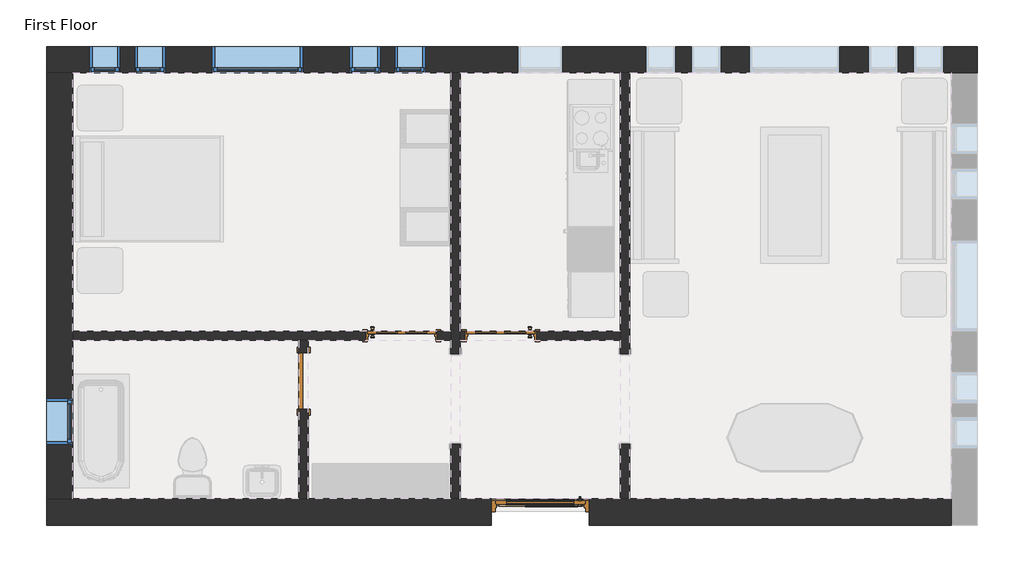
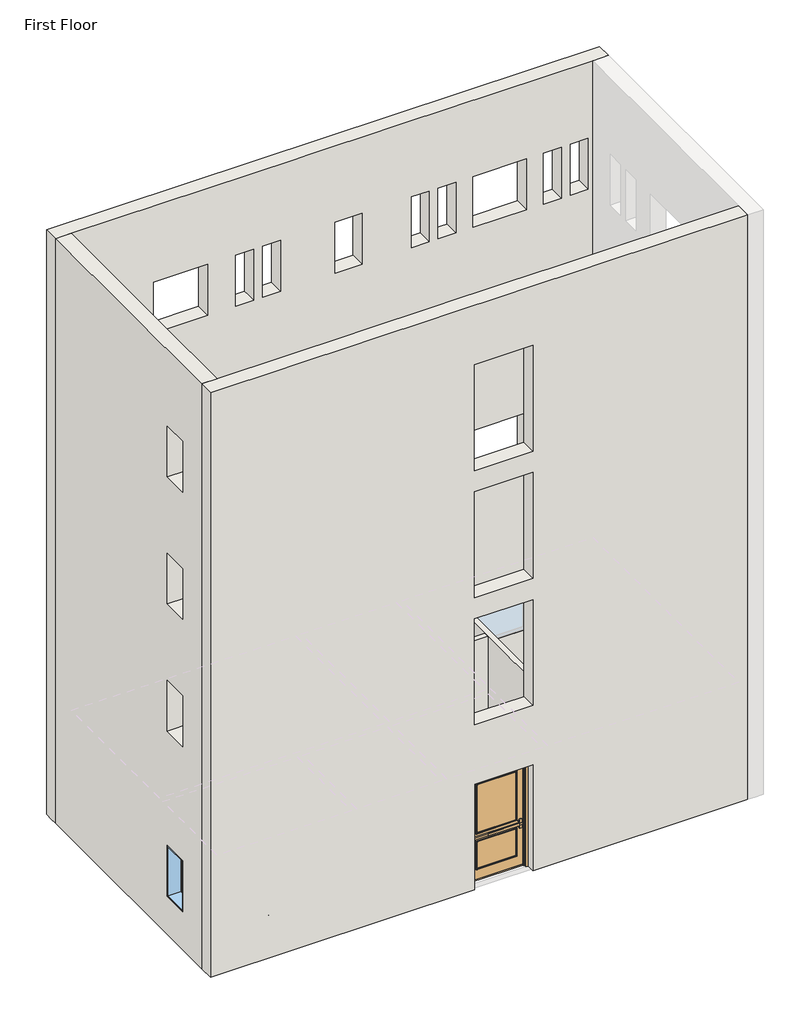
# One storey, part 1 of 2: 7 walls, 6 windows, 4 doors.
"""IFC4 building model written with IfcOpenShell, lengths in millimetres."""

from ifc_helpers import new_model, si_unit, frame, origin, place, context, project, spatial, polyline, outline, extrude, faceted_brep, transform, mapped, element, save
from components import door_734823c0, door_3a280f7b, door_48307b55, door_4d6c7550, window_da97879f, window_d61ef850, window_60baf983, window_6eb97611

model = new_model("IFC4")

# Units and contexts
model_context = context("Model", 3, world=origin())
ifc_project = project(units=[si_unit("LENGTHUNIT", "METRE", prefix="MILLI")], contexts=[model_context])

# Site, building, storey
site = spatial("IfcSite", under=ifc_project)
building = spatial("IfcBuilding", under=site)
storey = spatial("IfcBuildingStorey", under=building, Name="First Floor", Elevation=-914.4)

# Doors
placement = place(None, origin())
door_shape = door_734823c0(model_context)
element("IfcDoor", 1, ObjectType="Door-Exterior-Single-Two_Lite : 48\" x 96\"", at=placement, inside=storey, context=model_context, shape_type="MappedRepresentation", body=[
    mapped(door_shape, transform((-9720.1844712, 1685.5066174, -914.4), x_axis=(-1.0, 0.0, 0.0), y_axis=(0.0, -1.0, 0.0), z_axis=(0.0, 0.0, 1.0))),
])
door_2_shape = door_3a280f7b(model_context)
element("IfcDoor", 2, ObjectType="Door-Interior-Single-4_Panel-Wood : 36\" x 84\"", at=placement, inside=storey, context=model_context, shape_type="MappedRepresentation", body=[
    mapped(door_2_shape, transform((-10253.5844712, 4069.8630697, -914.4), x_axis=(-1.0, 0.0, 0.0), y_axis=(0.0, -1.0, 0.0), z_axis=(0.0, 0.0, 1.0))),
])
door_3_shape = door_48307b55(model_context)
element("IfcDoor", 3, ObjectType="Door-Interior-Single-4_Panel-Wood : 36\" x 84\"", at=placement, inside=storey, context=model_context, shape_type="MappedRepresentation", body=[
    mapped(door_3_shape, transform((-11588.6719712, 4069.8630697, -914.4), x_axis=(1.0, 0.0, 0.0), y_axis=(0.0, 1.0, 0.0), z_axis=(0.0, 0.0, 1.0))),
])
door_4_shape = door_4d6c7550(model_context)
element("IfcDoor", 4, ObjectType="Single-Flush : 30\" x 84\"", at=placement, inside=storey, context=model_context, shape_type="MappedRepresentation", body=[
    mapped(door_4_shape, transform((-12909.4719712, 3455.5691174, -914.4), x_axis=(0.0, 1.0, 0.0), y_axis=(-1.0, 0.0, 0.0), z_axis=(0.0, 0.0, 1.0))),
])

# Walls
element("IfcWall", 5, ObjectType="Exterior - Brick on Mtl. Stud", at=placement, inside=storey, context=model_context, shape_type="Brep", body=[
    faceted_brep([(-16373.3969712, 7611.6441174, -914.4), (-16186.0719712, 7611.6441174, -914.4), (-16020.9719712, 7611.6441174, -914.4), (-10926.6844712, 7611.6441174, -914.4), (-10799.6844712, 7611.6441174, -914.4), (-8640.6844712, 7611.6441174, -914.4), (-8513.6844712, 7611.6441174, -914.4), (-4181.3969712, 7611.6441174, -914.4), (-4016.2969712, 7611.6441174, -914.4), (-3828.9719712, 7611.6441174, -914.4), (-3828.9719712, 7611.6441174, 13106.4), (-4181.3969712, 7611.6441174, 13106.4), (-8513.6844712, 7611.6441174, 13106.4), (-8640.6844712, 7611.6441174, 13106.4), (-10799.6844712, 7611.6441174, 13106.4), (-10926.6844712, 7611.6441174, 13106.4), (-16020.9719712, 7611.6441174, 13106.4), (-16373.3969712, 7611.6441174, 13106.4), (-10024.9844712, 7611.6441174, 1219.2), (-9415.3844712, 7611.6441174, 1219.2), (-9415.3844712, 7611.6441174, 0.0), (-10024.9844712, 7611.6441174, 0.0), (-14139.7844712, 7611.6441174, 1219.2), (-12920.5844712, 7611.6441174, 1219.2), (-12920.5844712, 7611.6441174, 0.0), (-14139.7844712, 7611.6441174, 0.0), (-6900.7844712, 7611.6441174, 1219.2), (-5681.5844712, 7611.6441174, 1219.2), (-5681.5844712, 7611.6441174, 0.0), (-6900.7844712, 7611.6441174, 0.0), (-15790.7844712, 7611.6441174, 1219.2), (-15384.3844712, 7611.6441174, 1219.2), (-15384.3844712, 7611.6441174, 0.0), (-15790.7844712, 7611.6441174, 0.0), (-15181.1844712, 7611.6441174, 1219.2), (-14774.7844712, 7611.6441174, 1219.2), (-14774.7844712, 7611.6441174, 0.0), (-15181.1844712, 7611.6441174, 0.0), (-11879.1844712, 7611.6441174, 1219.2), (-11879.1844712, 7611.6441174, 0.0), (-12285.5844712, 7611.6441174, 0.0), (-12285.5844712, 7611.6441174, 1219.2), (-11269.5844712, 7611.6441174, 1219.2), (-11269.5844712, 7611.6441174, 0.0), (-11675.9844712, 7611.6441174, 0.0), (-11675.9844712, 7611.6441174, 1219.2), (-7688.1844712, 7611.6441174, 1219.2), (-7281.7844712, 7611.6441174, 1219.2), (-7281.7844712, 7611.6441174, 0.0), (-7688.1844712, 7611.6441174, 0.0), (-8297.7844712, 7611.6441174, 1219.2), (-7891.3844712, 7611.6441174, 1219.2), (-7891.3844712, 7611.6441174, 0.0), (-8297.7844712, 7611.6441174, 0.0), (-4894.1844712, 7611.6441174, 1219.2), (-4894.1844712, 7611.6441174, 0.0), (-5300.5844712, 7611.6441174, 0.0), (-5300.5844712, 7611.6441174, 1219.2), (-4284.5844712, 7611.6441174, 1219.2), (-4284.5844712, 7611.6441174, 0.0), (-4690.9844712, 7611.6441174, 0.0), (-4690.9844712, 7611.6441174, 1219.2), (-4894.1844712, 7611.6441174, 11277.6), (-4894.1844712, 7611.6441174, 10058.4), (-5300.5844712, 7611.6441174, 10058.4), (-5300.5844712, 7611.6441174, 11277.6), (-4284.5844712, 7611.6441174, 11277.6), (-4284.5844712, 7611.6441174, 10058.4), (-4690.9844712, 7611.6441174, 10058.4), (-4690.9844712, 7611.6441174, 11277.6), (-7688.1844712, 7611.6441174, 11277.6), (-7281.7844712, 7611.6441174, 11277.6), (-7281.7844712, 7611.6441174, 10058.4), (-7688.1844712, 7611.6441174, 10058.4), (-8297.7844712, 7611.6441174, 11277.6), (-7891.3844712, 7611.6441174, 11277.6), (-7891.3844712, 7611.6441174, 10058.4), (-8297.7844712, 7611.6441174, 10058.4), (-11879.1844712, 7611.6441174, 11277.6), (-11879.1844712, 7611.6441174, 10058.4), (-12285.5844712, 7611.6441174, 10058.4), (-12285.5844712, 7611.6441174, 11277.6), (-11269.5844712, 7611.6441174, 11277.6), (-11269.5844712, 7611.6441174, 10058.4), (-11675.9844712, 7611.6441174, 10058.4), (-11675.9844712, 7611.6441174, 11277.6), (-15181.1844712, 7611.6441174, 11277.6), (-14774.7844712, 7611.6441174, 11277.6), (-14774.7844712, 7611.6441174, 10058.4), (-15181.1844712, 7611.6441174, 10058.4), (-15790.7844712, 7611.6441174, 11277.6), (-15384.3844712, 7611.6441174, 11277.6), (-15384.3844712, 7611.6441174, 10058.4), (-15790.7844712, 7611.6441174, 10058.4), (-6900.7844712, 7611.6441174, 11277.6), (-5681.5844712, 7611.6441174, 11277.6), (-5681.5844712, 7611.6441174, 10058.4), (-6900.7844712, 7611.6441174, 10058.4), (-14139.7844712, 7611.6441174, 11277.6), (-12920.5844712, 7611.6441174, 11277.6), (-12920.5844712, 7611.6441174, 10058.4), (-14139.7844712, 7611.6441174, 10058.4), (-10024.9844712, 7611.6441174, 11277.6), (-9415.3844712, 7611.6441174, 11277.6), (-9415.3844712, 7611.6441174, 10058.4), (-10024.9844712, 7611.6441174, 10058.4), (-4894.1844712, 7611.6441174, 5181.6), (-4894.1844712, 7611.6441174, 3962.4), (-5300.5844712, 7611.6441174, 3962.4), (-5300.5844712, 7611.6441174, 5181.6), (-4284.5844712, 7611.6441174, 5181.6), (-4284.5844712, 7611.6441174, 3962.4), (-4690.9844712, 7611.6441174, 3962.4), (-4690.9844712, 7611.6441174, 5181.6), (-7688.1844712, 7611.6441174, 5181.6), (-7281.7844712, 7611.6441174, 5181.6), (-7281.7844712, 7611.6441174, 3962.4), (-7688.1844712, 7611.6441174, 3962.4), (-8297.7844712, 7611.6441174, 5181.6), (-7891.3844712, 7611.6441174, 5181.6), (-7891.3844712, 7611.6441174, 3962.4), (-8297.7844712, 7611.6441174, 3962.4), (-11879.1844712, 7611.6441174, 5181.6), (-11879.1844712, 7611.6441174, 3962.4), (-12285.5844712, 7611.6441174, 3962.4), (-12285.5844712, 7611.6441174, 5181.6), (-11269.5844712, 7611.6441174, 5181.6), (-11269.5844712, 7611.6441174, 3962.4), (-11675.9844712, 7611.6441174, 3962.4), (-11675.9844712, 7611.6441174, 5181.6), (-15181.1844712, 7611.6441174, 5181.6), (-14774.7844712, 7611.6441174, 5181.6), (-14774.7844712, 7611.6441174, 3962.4), (-15181.1844712, 7611.6441174, 3962.4), (-15790.7844712, 7611.6441174, 5181.6), (-15384.3844712, 7611.6441174, 5181.6), (-15384.3844712, 7611.6441174, 3962.4), (-15790.7844712, 7611.6441174, 3962.4), (-6900.7844712, 7611.6441174, 5181.6), (-5681.5844712, 7611.6441174, 5181.6), (-5681.5844712, 7611.6441174, 3962.4), (-6900.7844712, 7611.6441174, 3962.4), (-14139.7844712, 7611.6441174, 5181.6), (-12920.5844712, 7611.6441174, 5181.6), (-12920.5844712, 7611.6441174, 3962.4), (-14139.7844712, 7611.6441174, 3962.4), (-10024.9844712, 7611.6441174, 5181.6), (-9415.3844712, 7611.6441174, 5181.6), (-9415.3844712, 7611.6441174, 3962.4), (-10024.9844712, 7611.6441174, 3962.4), (-4894.1844712, 7611.6441174, 8229.6), (-4894.1844712, 7611.6441174, 7010.4), (-5300.5844712, 7611.6441174, 7010.4), (-5300.5844712, 7611.6441174, 8229.6), (-4284.5844712, 7611.6441174, 8229.6), (-4284.5844712, 7611.6441174, 7010.4), (-4690.9844712, 7611.6441174, 7010.4), (-4690.9844712, 7611.6441174, 8229.6), (-7688.1844712, 7611.6441174, 8229.6), (-7281.7844712, 7611.6441174, 8229.6), (-7281.7844712, 7611.6441174, 7010.4), (-7688.1844712, 7611.6441174, 7010.4), (-8297.7844712, 7611.6441174, 8229.6), (-7891.3844712, 7611.6441174, 8229.6), (-7891.3844712, 7611.6441174, 7010.4), (-8297.7844712, 7611.6441174, 7010.4), (-11879.1844712, 7611.6441174, 8229.6), (-11879.1844712, 7611.6441174, 7010.4), (-12285.5844712, 7611.6441174, 7010.4), (-12285.5844712, 7611.6441174, 8229.6), (-11269.5844712, 7611.6441174, 8229.6), (-11269.5844712, 7611.6441174, 7010.4), (-11675.9844712, 7611.6441174, 7010.4), (-11675.9844712, 7611.6441174, 8229.6), (-15181.1844712, 7611.6441174, 8229.6), (-14774.7844712, 7611.6441174, 8229.6), (-14774.7844712, 7611.6441174, 7010.4), (-15181.1844712, 7611.6441174, 7010.4), (-15790.7844712, 7611.6441174, 8229.6), (-15384.3844712, 7611.6441174, 8229.6), (-15384.3844712, 7611.6441174, 7010.4), (-15790.7844712, 7611.6441174, 7010.4), (-6900.7844712, 7611.6441174, 8229.6), (-5681.5844712, 7611.6441174, 8229.6), (-5681.5844712, 7611.6441174, 7010.4), (-6900.7844712, 7611.6441174, 7010.4), (-14139.7844712, 7611.6441174, 8229.6), (-12920.5844712, 7611.6441174, 8229.6), (-12920.5844712, 7611.6441174, 7010.4), (-14139.7844712, 7611.6441174, 7010.4), (-10024.9844712, 7611.6441174, 8229.6), (-9415.3844712, 7611.6441174, 8229.6), (-9415.3844712, 7611.6441174, 7010.4), (-10024.9844712, 7611.6441174, 7010.4), (-16373.3969712, 7964.0691174, -914.4), (-16373.3969712, 7964.0691174, 13106.4), (-3828.9719712, 7964.0691174, 13106.4), (-3828.9719712, 7964.0691174, -914.4), (-4016.2969712, 7964.0691174, -914.4), (-16186.0719712, 7964.0691174, -914.4), (-10024.9844712, 7964.0691174, 1219.2), (-10024.9844712, 7964.0691174, 0.0), (-9415.3844712, 7964.0691174, 0.0), (-9415.3844712, 7964.0691174, 1219.2), (-14139.7844712, 7964.0691174, 1219.2), (-14139.7844712, 7964.0691174, 0.0), (-12920.5844712, 7964.0691174, 0.0), (-12920.5844712, 7964.0691174, 1219.2), (-6900.7844712, 7964.0691174, 1219.2), (-6900.7844712, 7964.0691174, 0.0), (-5681.5844712, 7964.0691174, 0.0), (-5681.5844712, 7964.0691174, 1219.2), (-15790.7844712, 7964.0691174, 1219.2), (-15790.7844712, 7964.0691174, 0.0), (-15384.3844712, 7964.0691174, 0.0), (-15384.3844712, 7964.0691174, 1219.2), (-15181.1844712, 7964.0691174, 1219.2), (-15181.1844712, 7964.0691174, 0.0), (-14774.7844712, 7964.0691174, 0.0), (-14774.7844712, 7964.0691174, 1219.2), (-11879.1844712, 7964.0691174, 1219.2), (-12285.5844712, 7964.0691174, 1219.2), (-12285.5844712, 7964.0691174, 0.0), (-11879.1844712, 7964.0691174, 0.0), (-11269.5844712, 7964.0691174, 1219.2), (-11675.9844712, 7964.0691174, 1219.2), (-11675.9844712, 7964.0691174, 0.0), (-11269.5844712, 7964.0691174, 0.0), (-7688.1844712, 7964.0691174, 1219.2), (-7688.1844712, 7964.0691174, 0.0), (-7281.7844712, 7964.0691174, 0.0), (-7281.7844712, 7964.0691174, 1219.2), (-8297.7844712, 7964.0691174, 1219.2), (-8297.7844712, 7964.0691174, 0.0), (-7891.3844712, 7964.0691174, 0.0), (-7891.3844712, 7964.0691174, 1219.2), (-4894.1844712, 7964.0691174, 1219.2), (-5300.5844712, 7964.0691174, 1219.2), (-5300.5844712, 7964.0691174, 0.0), (-4894.1844712, 7964.0691174, 0.0), (-4284.5844712, 7964.0691174, 1219.2), (-4690.9844712, 7964.0691174, 1219.2), (-4690.9844712, 7964.0691174, 0.0), (-4284.5844712, 7964.0691174, 0.0), (-4894.1844712, 7964.0691174, 11277.6), (-5300.5844712, 7964.0691174, 11277.6), (-5300.5844712, 7964.0691174, 10058.4), (-4894.1844712, 7964.0691174, 10058.4), (-4284.5844712, 7964.0691174, 11277.6), (-4690.9844712, 7964.0691174, 11277.6), (-4690.9844712, 7964.0691174, 10058.4), (-4284.5844712, 7964.0691174, 10058.4), (-7688.1844712, 7964.0691174, 11277.6), (-7688.1844712, 7964.0691174, 10058.4), (-7281.7844712, 7964.0691174, 10058.4), (-7281.7844712, 7964.0691174, 11277.6), (-8297.7844712, 7964.0691174, 11277.6), (-8297.7844712, 7964.0691174, 10058.4), (-7891.3844712, 7964.0691174, 10058.4), (-7891.3844712, 7964.0691174, 11277.6), (-11879.1844712, 7964.0691174, 11277.6), (-12285.5844712, 7964.0691174, 11277.6), (-12285.5844712, 7964.0691174, 10058.4), (-11879.1844712, 7964.0691174, 10058.4), (-11269.5844712, 7964.0691174, 11277.6), (-11675.9844712, 7964.0691174, 11277.6), (-11675.9844712, 7964.0691174, 10058.4), (-11269.5844712, 7964.0691174, 10058.4), (-15181.1844712, 7964.0691174, 11277.6), (-15181.1844712, 7964.0691174, 10058.4), (-14774.7844712, 7964.0691174, 10058.4), (-14774.7844712, 7964.0691174, 11277.6), (-15790.7844712, 7964.0691174, 11277.6), (-15790.7844712, 7964.0691174, 10058.4), (-15384.3844712, 7964.0691174, 10058.4), (-15384.3844712, 7964.0691174, 11277.6), (-6900.7844712, 7964.0691174, 11277.6), (-6900.7844712, 7964.0691174, 10058.4), (-5681.5844712, 7964.0691174, 10058.4), (-5681.5844712, 7964.0691174, 11277.6), (-14139.7844712, 7964.0691174, 11277.6), (-14139.7844712, 7964.0691174, 10058.4), (-12920.5844712, 7964.0691174, 10058.4), (-12920.5844712, 7964.0691174, 11277.6), (-10024.9844712, 7964.0691174, 11277.6), (-10024.9844712, 7964.0691174, 10058.4), (-9415.3844712, 7964.0691174, 10058.4), (-9415.3844712, 7964.0691174, 11277.6), (-4894.1844712, 7964.0691174, 5181.6), (-5300.5844712, 7964.0691174, 5181.6), (-5300.5844712, 7964.0691174, 3962.4), (-4894.1844712, 7964.0691174, 3962.4), (-4284.5844712, 7964.0691174, 5181.6), (-4690.9844712, 7964.0691174, 5181.6), (-4690.9844712, 7964.0691174, 3962.4), (-4284.5844712, 7964.0691174, 3962.4), (-7688.1844712, 7964.0691174, 5181.6), (-7688.1844712, 7964.0691174, 3962.4), (-7281.7844712, 7964.0691174, 3962.4), (-7281.7844712, 7964.0691174, 5181.6), (-8297.7844712, 7964.0691174, 5181.6), (-8297.7844712, 7964.0691174, 3962.4), (-7891.3844712, 7964.0691174, 3962.4), (-7891.3844712, 7964.0691174, 5181.6), (-11879.1844712, 7964.0691174, 5181.6), (-12285.5844712, 7964.0691174, 5181.6), (-12285.5844712, 7964.0691174, 3962.4), (-11879.1844712, 7964.0691174, 3962.4), (-11269.5844712, 7964.0691174, 5181.6), (-11675.9844712, 7964.0691174, 5181.6), (-11675.9844712, 7964.0691174, 3962.4), (-11269.5844712, 7964.0691174, 3962.4), (-15181.1844712, 7964.0691174, 5181.6), (-15181.1844712, 7964.0691174, 3962.4), (-14774.7844712, 7964.0691174, 3962.4), (-14774.7844712, 7964.0691174, 5181.6), (-15790.7844712, 7964.0691174, 5181.6), (-15790.7844712, 7964.0691174, 3962.4), (-15384.3844712, 7964.0691174, 3962.4), (-15384.3844712, 7964.0691174, 5181.6), (-6900.7844712, 7964.0691174, 5181.6), (-6900.7844712, 7964.0691174, 3962.4), (-5681.5844712, 7964.0691174, 3962.4), (-5681.5844712, 7964.0691174, 5181.6), (-14139.7844712, 7964.0691174, 5181.6), (-14139.7844712, 7964.0691174, 3962.4), (-12920.5844712, 7964.0691174, 3962.4), (-12920.5844712, 7964.0691174, 5181.6), (-10024.9844712, 7964.0691174, 5181.6), (-10024.9844712, 7964.0691174, 3962.4), (-9415.3844712, 7964.0691174, 3962.4), (-9415.3844712, 7964.0691174, 5181.6), (-4894.1844712, 7964.0691174, 8229.6), (-5300.5844712, 7964.0691174, 8229.6), (-5300.5844712, 7964.0691174, 7010.4), (-4894.1844712, 7964.0691174, 7010.4), (-4284.5844712, 7964.0691174, 8229.6), (-4690.9844712, 7964.0691174, 8229.6), (-4690.9844712, 7964.0691174, 7010.4), (-4284.5844712, 7964.0691174, 7010.4), (-7688.1844712, 7964.0691174, 8229.6), (-7688.1844712, 7964.0691174, 7010.4), (-7281.7844712, 7964.0691174, 7010.4), (-7281.7844712, 7964.0691174, 8229.6), (-8297.7844712, 7964.0691174, 8229.6), (-8297.7844712, 7964.0691174, 7010.4), (-7891.3844712, 7964.0691174, 7010.4), (-7891.3844712, 7964.0691174, 8229.6), (-11879.1844712, 7964.0691174, 8229.6), (-12285.5844712, 7964.0691174, 8229.6), (-12285.5844712, 7964.0691174, 7010.4), (-11879.1844712, 7964.0691174, 7010.4), (-11269.5844712, 7964.0691174, 8229.6), (-11675.9844712, 7964.0691174, 8229.6), (-11675.9844712, 7964.0691174, 7010.4), (-11269.5844712, 7964.0691174, 7010.4), (-15181.1844712, 7964.0691174, 8229.6), (-15181.1844712, 7964.0691174, 7010.4), (-14774.7844712, 7964.0691174, 7010.4), (-14774.7844712, 7964.0691174, 8229.6), (-15790.7844712, 7964.0691174, 8229.6), (-15790.7844712, 7964.0691174, 7010.4), (-15384.3844712, 7964.0691174, 7010.4), (-15384.3844712, 7964.0691174, 8229.6), (-6900.7844712, 7964.0691174, 8229.6), (-6900.7844712, 7964.0691174, 7010.4), (-5681.5844712, 7964.0691174, 7010.4), (-5681.5844712, 7964.0691174, 8229.6), (-14139.7844712, 7964.0691174, 8229.6), (-14139.7844712, 7964.0691174, 7010.4), (-12920.5844712, 7964.0691174, 7010.4), (-12920.5844712, 7964.0691174, 8229.6), (-10024.9844712, 7964.0691174, 8229.6), (-10024.9844712, 7964.0691174, 7010.4), (-9415.3844712, 7964.0691174, 7010.4), (-9415.3844712, 7964.0691174, 8229.6), (-3828.9719712, 7776.7441174, -914.4), (-16373.3969712, 7776.7441174, -914.4), (-16186.0719712, 7776.7441174, -914.4), (-4016.2969712, 7776.7441174, -914.4)], [[[0, 1, 2, 3, 4, 5, 6, 7, 8, 9, 10, 11, 12, 13, 14, 15, 16, 17], [18, 19, 20, 21], [22, 23, 24, 25], [26, 27, 28, 29], [30, 31, 32, 33], [34, 35, 36, 37], [38, 39, 40, 41], [42, 43, 44, 45], [46, 47, 48, 49], [50, 51, 52, 53], [54, 55, 56, 57], [58, 59, 60, 61], [62, 63, 64, 65], [66, 67, 68, 69], [70, 71, 72, 73], [74, 75, 76, 77], [78, 79, 80, 81], [82, 83, 84, 85], [86, 87, 88, 89], [90, 91, 92, 93], [94, 95, 96, 97], [98, 99, 100, 101], [102, 103, 104, 105], [106, 107, 108, 109], [110, 111, 112, 113], [114, 115, 116, 117], [118, 119, 120, 121], [122, 123, 124, 125], [126, 127, 128, 129], [130, 131, 132, 133], [134, 135, 136, 137], [138, 139, 140, 141], [142, 143, 144, 145], [146, 147, 148, 149], [150, 151, 152, 153], [154, 155, 156, 157], [158, 159, 160, 161], [162, 163, 164, 165], [166, 167, 168, 169], [170, 171, 172, 173], [174, 175, 176, 177], [178, 179, 180, 181], [182, 183, 184, 185], [186, 187, 188, 189], [190, 191, 192, 193]], [[194, 195, 196, 197, 198, 199], [200, 201, 202, 203], [204, 205, 206, 207], [208, 209, 210, 211], [212, 213, 214, 215], [216, 217, 218, 219], [220, 221, 222, 223], [224, 225, 226, 227], [228, 229, 230, 231], [232, 233, 234, 235], [236, 237, 238, 239], [240, 241, 242, 243], [244, 245, 246, 247], [248, 249, 250, 251], [252, 253, 254, 255], [256, 257, 258, 259], [260, 261, 262, 263], [264, 265, 266, 267], [268, 269, 270, 271], [272, 273, 274, 275], [276, 277, 278, 279], [280, 281, 282, 283], [284, 285, 286, 287], [288, 289, 290, 291], [292, 293, 294, 295], [296, 297, 298, 299], [300, 301, 302, 303], [304, 305, 306, 307], [308, 309, 310, 311], [312, 313, 314, 315], [316, 317, 318, 319], [320, 321, 322, 323], [324, 325, 326, 327], [328, 329, 330, 331], [332, 333, 334, 335], [336, 337, 338, 339], [340, 341, 342, 343], [344, 345, 346, 347], [348, 349, 350, 351], [352, 353, 354, 355], [356, 357, 358, 359], [360, 361, 362, 363], [364, 365, 366, 367], [368, 369, 370, 371], [372, 373, 374, 375]], [[17, 16, 15, 14, 13, 12, 11, 10, 196, 195]], [[10, 9, 376, 197, 196]], [[0, 17, 195, 194, 377]], [[201, 200, 18, 21]], [[202, 201, 21, 20]], [[203, 202, 20, 19]], [[200, 203, 19, 18]], [[205, 204, 22, 25]], [[206, 205, 25, 24]], [[207, 206, 24, 23]], [[204, 207, 23, 22]], [[209, 208, 26, 29]], [[210, 209, 29, 28]], [[211, 210, 28, 27]], [[208, 211, 27, 26]], [[213, 212, 30, 33]], [[214, 213, 33, 32]], [[215, 214, 32, 31]], [[212, 215, 31, 30]], [[217, 216, 34, 37]], [[218, 217, 37, 36]], [[219, 218, 36, 35]], [[216, 219, 35, 34]], [[39, 38, 220, 223]], [[40, 39, 223, 222]], [[41, 40, 222, 221]], [[38, 41, 221, 220]], [[43, 42, 224, 227]], [[44, 43, 227, 226]], [[45, 44, 226, 225]], [[42, 45, 225, 224]], [[229, 228, 46, 49]], [[230, 229, 49, 48]], [[231, 230, 48, 47]], [[228, 231, 47, 46]], [[233, 232, 50, 53]], [[234, 233, 53, 52]], [[235, 234, 52, 51]], [[232, 235, 51, 50]], [[55, 54, 236, 239]], [[56, 55, 239, 238]], [[57, 56, 238, 237]], [[54, 57, 237, 236]], [[59, 58, 240, 243]], [[60, 59, 243, 242]], [[61, 60, 242, 241]], [[58, 61, 241, 240]], [[1, 0, 377, 378]], [[377, 194, 199, 378]], [[9, 8, 379, 376]], [[199, 198, 379, 378]], [[198, 197, 376, 379]], [[8, 7, 6, 5, 4, 3, 2, 1, 378, 379]], [[63, 62, 244, 247]], [[64, 63, 247, 246]], [[65, 64, 246, 245]], [[62, 65, 245, 244]], [[67, 66, 248, 251]], [[68, 67, 251, 250]], [[69, 68, 250, 249]], [[66, 69, 249, 248]], [[253, 252, 70, 73]], [[254, 253, 73, 72]], [[255, 254, 72, 71]], [[252, 255, 71, 70]], [[257, 256, 74, 77]], [[258, 257, 77, 76]], [[259, 258, 76, 75]], [[256, 259, 75, 74]], [[79, 78, 260, 263]], [[80, 79, 263, 262]], [[81, 80, 262, 261]], [[78, 81, 261, 260]], [[83, 82, 264, 267]], [[84, 83, 267, 266]], [[85, 84, 266, 265]], [[82, 85, 265, 264]], [[269, 268, 86, 89]], [[270, 269, 89, 88]], [[271, 270, 88, 87]], [[268, 271, 87, 86]], [[273, 272, 90, 93]], [[274, 273, 93, 92]], [[275, 274, 92, 91]], [[272, 275, 91, 90]], [[277, 276, 94, 97]], [[278, 277, 97, 96]], [[279, 278, 96, 95]], [[276, 279, 95, 94]], [[281, 280, 98, 101]], [[282, 281, 101, 100]], [[283, 282, 100, 99]], [[280, 283, 99, 98]], [[285, 284, 102, 105]], [[286, 285, 105, 104]], [[287, 286, 104, 103]], [[284, 287, 103, 102]], [[107, 106, 288, 291]], [[108, 107, 291, 290]], [[109, 108, 290, 289]], [[106, 109, 289, 288]], [[111, 110, 292, 295]], [[112, 111, 295, 294]], [[113, 112, 294, 293]], [[110, 113, 293, 292]], [[297, 296, 114, 117]], [[298, 297, 117, 116]], [[299, 298, 116, 115]], [[296, 299, 115, 114]], [[301, 300, 118, 121]], [[302, 301, 121, 120]], [[303, 302, 120, 119]], [[300, 303, 119, 118]], [[123, 122, 304, 307]], [[124, 123, 307, 306]], [[125, 124, 306, 305]], [[122, 125, 305, 304]], [[127, 126, 308, 311]], [[128, 127, 311, 310]], [[129, 128, 310, 309]], [[126, 129, 309, 308]], [[313, 312, 130, 133]], [[314, 313, 133, 132]], [[315, 314, 132, 131]], [[312, 315, 131, 130]], [[317, 316, 134, 137]], [[318, 317, 137, 136]], [[319, 318, 136, 135]], [[316, 319, 135, 134]], [[321, 320, 138, 141]], [[322, 321, 141, 140]], [[323, 322, 140, 139]], [[320, 323, 139, 138]], [[325, 324, 142, 145]], [[326, 325, 145, 144]], [[327, 326, 144, 143]], [[324, 327, 143, 142]], [[329, 328, 146, 149]], [[330, 329, 149, 148]], [[331, 330, 148, 147]], [[328, 331, 147, 146]], [[151, 150, 332, 335]], [[152, 151, 335, 334]], [[153, 152, 334, 333]], [[150, 153, 333, 332]], [[155, 154, 336, 339]], [[156, 155, 339, 338]], [[157, 156, 338, 337]], [[154, 157, 337, 336]], [[341, 340, 158, 161]], [[342, 341, 161, 160]], [[343, 342, 160, 159]], [[340, 343, 159, 158]], [[345, 344, 162, 165]], [[346, 345, 165, 164]], [[347, 346, 164, 163]], [[344, 347, 163, 162]], [[167, 166, 348, 351]], [[168, 167, 351, 350]], [[169, 168, 350, 349]], [[166, 169, 349, 348]], [[171, 170, 352, 355]], [[172, 171, 355, 354]], [[173, 172, 354, 353]], [[170, 173, 353, 352]], [[357, 356, 174, 177]], [[358, 357, 177, 176]], [[359, 358, 176, 175]], [[356, 359, 175, 174]], [[361, 360, 178, 181]], [[362, 361, 181, 180]], [[363, 362, 180, 179]], [[360, 363, 179, 178]], [[365, 364, 182, 185]], [[366, 365, 185, 184]], [[367, 366, 184, 183]], [[364, 367, 183, 182]], [[369, 368, 186, 189]], [[370, 369, 189, 188]], [[371, 370, 188, 187]], [[368, 371, 187, 186]], [[373, 372, 190, 193]], [[374, 373, 193, 192]], [[375, 374, 192, 191]], [[372, 375, 191, 190]]]),
])
element("IfcWall", 6, ObjectType="Exterior - Brick on Mtl. Stud", at=placement, inside=storey, context=model_context, shape_type="Brep", body=[
    faceted_brep([(-16373.3969712, 1868.0691174, 13106.4), (-16020.9719712, 1868.0691174, 13106.4), (-12972.9719712, 1868.0691174, 13106.4), (-12845.9719712, 1868.0691174, 13106.4), (-10926.6844712, 1868.0691174, 13106.4), (-10799.6844712, 1868.0691174, 13106.4), (-8640.6844712, 1868.0691174, 13106.4), (-8513.6844712, 1868.0691174, 13106.4), (-4181.3969712, 1868.0691174, 13106.4), (-4181.3969712, 1868.0691174, -914.4), (-8513.6844712, 1868.0691174, -914.4), (-8640.6844712, 1868.0691174, -914.4), (-9059.7844712, 1868.0691174, -914.4), (-9059.7844712, 1868.0691174, 1625.6), (-10380.5844712, 1868.0691174, 1625.6), (-10380.5844712, 1868.0691174, -914.4), (-10799.6844712, 1868.0691174, -914.4), (-10926.6844712, 1868.0691174, -914.4), (-12845.9719712, 1868.0691174, -914.4), (-12972.9719712, 1868.0691174, -914.4), (-16020.9719712, 1868.0691174, -914.4), (-16373.3969712, 1868.0691174, -914.4), (-10380.5844712, 1868.0691174, 9144.0), (-9059.7844712, 1868.0691174, 9144.0), (-9059.7844712, 1868.0691174, 11684.0), (-10380.5844712, 1868.0691174, 11684.0), (-10380.5844712, 1868.0691174, 3048.0), (-9059.7844712, 1868.0691174, 3048.0), (-9059.7844712, 1868.0691174, 5588.0), (-10380.5844712, 1868.0691174, 5588.0), (-10380.5844712, 1868.0691174, 6096.0), (-9059.7844712, 1868.0691174, 6096.0), (-9059.7844712, 1868.0691174, 8636.0), (-10380.5844712, 1868.0691174, 8636.0), (-4181.3969712, 1515.6441174, 13106.4), (-16373.3969712, 1515.6441174, 13106.4), (-16373.3969712, 1515.6441174, -914.4), (-10380.5844712, 1515.6441174, -914.4), (-10380.5844712, 1515.6441174, 1625.6), (-9059.7844712, 1515.6441174, 1625.6), (-9059.7844712, 1515.6441174, -914.4), (-4181.3969712, 1515.6441174, -914.4), (-10380.5844712, 1515.6441174, 9144.0), (-10380.5844712, 1515.6441174, 11684.0), (-9059.7844712, 1515.6441174, 11684.0), (-9059.7844712, 1515.6441174, 9144.0), (-10380.5844712, 1515.6441174, 3048.0), (-10380.5844712, 1515.6441174, 5588.0), (-9059.7844712, 1515.6441174, 5588.0), (-9059.7844712, 1515.6441174, 3048.0), (-10380.5844712, 1515.6441174, 6096.0), (-10380.5844712, 1515.6441174, 8636.0), (-9059.7844712, 1515.6441174, 8636.0), (-9059.7844712, 1515.6441174, 6096.0)], [[[0, 1, 2, 3, 4, 5, 6, 7, 8, 9, 10, 11, 12, 13, 14, 15, 16, 17, 18, 19, 20, 21], [22, 23, 24, 25], [26, 27, 28, 29], [30, 31, 32, 33]], [[34, 35, 36, 37, 38, 39, 40, 41], [42, 43, 44, 45], [46, 47, 48, 49], [50, 51, 52, 53]], [[9, 41, 40, 12, 11, 10]], [[36, 21, 20, 19, 18, 17, 16, 15, 37]], [[8, 7, 6, 5, 4, 3, 2, 1, 0, 35, 34]], [[9, 8, 34, 41]], [[0, 21, 36, 35]], [[14, 38, 37, 15]], [[38, 14, 13, 39]], [[39, 13, 12, 40]], [[43, 42, 22, 25]], [[44, 43, 25, 24]], [[45, 44, 24, 23]], [[42, 45, 23, 22]], [[47, 46, 26, 29]], [[48, 47, 29, 28]], [[49, 48, 28, 27]], [[46, 49, 27, 26]], [[51, 50, 30, 33]], [[52, 51, 33, 32]], [[53, 52, 32, 31]], [[50, 53, 31, 30]]]),
])
element("IfcWall", 7, ObjectType="Exterior - Brick on Mtl. Stud", at=placement, inside=storey, context=model_context, shape_type="Brep", body=[
    faceted_brep([(-16020.9719712, 1868.0691174, -914.4), (-16020.9719712, 4003.1880697, -914.4), (-16020.9719712, 4130.1880697, -914.4), (-16020.9719712, 7611.6441174, -914.4), (-16020.9719712, 7611.6441174, 13106.4), (-16020.9719712, 4128.6691174, 13106.4), (-16020.9719712, 4001.6691174, 13106.4), (-16020.9719712, 1868.0691174, 13106.4), (-16020.9719712, 2606.2566174, 1219.2), (-16020.9719712, 3215.8566174, 1219.2), (-16020.9719712, 3215.8566174, 0.0), (-16020.9719712, 2606.2566174, 0.0), (-16020.9719712, 2606.2566174, 11277.6), (-16020.9719712, 3215.8566174, 11277.6), (-16020.9719712, 3215.8566174, 10058.4), (-16020.9719712, 2606.2566174, 10058.4), (-16020.9719712, 2606.2566174, 5181.6), (-16020.9719712, 3215.8566174, 5181.6), (-16020.9719712, 3215.8566174, 3962.4), (-16020.9719712, 2606.2566174, 3962.4), (-16020.9719712, 2606.2566174, 8229.6), (-16020.9719712, 3215.8566174, 8229.6), (-16020.9719712, 3215.8566174, 7010.4), (-16020.9719712, 2606.2566174, 7010.4), (-16373.3969712, 1868.0691174, -914.4), (-16373.3969712, 1868.0691174, 13106.4), (-16373.3969712, 7611.6441174, 13106.4), (-16373.3969712, 7611.6441174, -914.4), (-16373.3969712, 2606.2566174, 1219.2), (-16373.3969712, 2606.2566174, 0.0), (-16373.3969712, 3215.8566174, 0.0), (-16373.3969712, 3215.8566174, 1219.2), (-16373.3969712, 2606.2566174, 11277.6), (-16373.3969712, 2606.2566174, 10058.4), (-16373.3969712, 3215.8566174, 10058.4), (-16373.3969712, 3215.8566174, 11277.6), (-16373.3969712, 2606.2566174, 5181.6), (-16373.3969712, 2606.2566174, 3962.4), (-16373.3969712, 3215.8566174, 3962.4), (-16373.3969712, 3215.8566174, 5181.6), (-16373.3969712, 2606.2566174, 8229.6), (-16373.3969712, 2606.2566174, 7010.4), (-16373.3969712, 3215.8566174, 7010.4), (-16373.3969712, 3215.8566174, 8229.6), (-16186.0719712, 1868.0691174, -914.4), (-16186.0719712, 7611.6441174, -914.4)], [[[0, 1, 2, 3, 4, 5, 6, 7], [8, 9, 10, 11], [12, 13, 14, 15], [16, 17, 18, 19], [20, 21, 22, 23]], [[24, 25, 26, 27], [28, 29, 30, 31], [32, 33, 34, 35], [36, 37, 38, 39], [40, 41, 42, 43]], [[7, 6, 5, 4, 26, 25]], [[0, 7, 25, 24, 44]], [[4, 3, 45, 27, 26]], [[29, 28, 8, 11]], [[30, 29, 11, 10]], [[31, 30, 10, 9]], [[28, 31, 9, 8]], [[44, 24, 27, 45]], [[3, 2, 1, 0, 44, 45]], [[33, 32, 12, 15]], [[34, 33, 15, 14]], [[35, 34, 14, 13]], [[32, 35, 13, 12]], [[37, 36, 16, 19]], [[38, 37, 19, 18]], [[39, 38, 18, 17]], [[36, 39, 17, 16]], [[41, 40, 20, 23]], [[42, 41, 23, 22]], [[43, 42, 22, 21]], [[40, 43, 21, 20]]]),
])
element("IfcWall", 8, ObjectType="Interior - 5\" Partition (2-hr)", at=placement, inside=storey, context=model_context, shape_type="Brep", body=[
    faceted_brep([(-8640.6844712, 7611.6441174, -914.4), (-8640.6844712, 4130.1880697, -914.4), (-8640.6844712, 4003.1880697, -914.4), (-8640.6844712, 3825.4566174, -914.4), (-8640.6844712, 3825.4566174, 1219.2), (-8640.6844712, 2606.2566174, 1219.2), (-8640.6844712, 2606.2566174, -914.4), (-8640.6844712, 1868.0691174, -914.4), (-8640.6844712, 1868.0691174, 3048.0), (-8640.6844712, 4003.1880697, 3048.0), (-8640.6844712, 4130.1880697, 3048.0), (-8640.6844712, 7611.6441174, 3048.0), (-8513.6844712, 3825.4566174, 1219.2), (-8513.6844712, 3825.4566174, -914.4), (-8513.6844712, 7611.6441174, -914.4), (-8513.6844712, 7611.6441174, 3048.0), (-8513.6844712, 1868.0691174, 3048.0), (-8513.6844712, 1868.0691174, -914.4), (-8513.6844712, 2606.2566174, -914.4), (-8513.6844712, 2606.2566174, 1219.2)], [[[0, 1, 2, 3, 4, 5, 6, 7, 8, 9, 10, 11]], [[12, 13, 14, 15, 16, 17, 18, 19]], [[18, 17, 7, 6]], [[14, 13, 3, 2, 1, 0]], [[11, 10, 9, 8, 16, 15]], [[0, 11, 15, 14]], [[8, 7, 17, 16]], [[6, 5, 19, 18]], [[4, 3, 13, 12]], [[5, 4, 12, 19]]]),
])
element("IfcWall", 9, ObjectType="Interior - 5\" Partition (2-hr)", at=placement, inside=storey, context=model_context, shape_type="Brep", body=[
    faceted_brep([(-10926.6844712, 7611.6441174, -914.4), (-10926.6844712, 4130.1880697, -914.4), (-10926.6844712, 4003.1880697, -914.4), (-10926.6844712, 3825.4566174, -914.4), (-10926.6844712, 3825.4566174, 1219.2), (-10926.6844712, 2606.2566174, 1219.2), (-10926.6844712, 2606.2566174, -914.4), (-10926.6844712, 1868.0691174, -914.4), (-10926.6844712, 1868.0691174, 3048.0), (-10926.6844712, 4003.1880697, 3048.0), (-10926.6844712, 4130.1880697, 3048.0), (-10926.6844712, 7611.6441174, 3048.0), (-10799.6844712, 3825.4566174, 1219.2), (-10799.6844712, 3825.4566174, -914.4), (-10799.6844712, 4003.1880697, -914.4), (-10799.6844712, 4130.1880697, -914.4), (-10799.6844712, 7611.6441174, -914.4), (-10799.6844712, 7611.6441174, 3048.0), (-10799.6844712, 4130.1880697, 3048.0), (-10799.6844712, 4003.1880697, 3048.0), (-10799.6844712, 1868.0691174, 3048.0), (-10799.6844712, 1868.0691174, -914.4), (-10799.6844712, 2606.2566174, -914.4), (-10799.6844712, 2606.2566174, 1219.2)], [[[0, 1, 2, 3, 4, 5, 6, 7, 8, 9, 10, 11]], [[12, 13, 14, 15, 16, 17, 18, 19, 20, 21, 22, 23]], [[22, 21, 7, 6]], [[16, 15, 14, 13, 3, 2, 1, 0]], [[11, 10, 9, 8, 20, 19, 18, 17]], [[0, 11, 17, 16]], [[8, 7, 21, 20]], [[6, 5, 23, 22]], [[4, 3, 13, 12]], [[5, 4, 12, 23]]]),
])
element("IfcWall", 10, ObjectType="Interior - 5\" Partition (2-hr)", at=placement, inside=storey, context=model_context, shape_type="Brep", body=[
    faceted_brep([(-16020.9719712, 4003.1880697, 3048.0), (-16020.9719712, 4003.1880697, -914.4), (-12972.9719712, 4003.1880697, -914.4), (-12845.9719712, 4003.1880697, -914.4), (-12071.2719712, 4003.1880697, -914.4), (-12071.2719712, 4003.1880697, 1244.6), (-11106.0719712, 4003.1880697, 1244.6), (-11106.0719712, 4003.1880697, -914.4), (-10926.6844712, 4003.1880697, -914.4), (-10926.6844712, 4003.1880697, 3048.0), (-12845.9719712, 4003.1880697, 3048.0), (-12972.9719712, 4003.1880697, 3048.0), (-16020.9719712, 4130.1880697, -914.4), (-16020.9719712, 4130.1880697, 3048.0), (-10926.6844712, 4130.1880697, 3048.0), (-10926.6844712, 4130.1880697, -914.4), (-11106.0719712, 4130.1880697, -914.4), (-11106.0719712, 4130.1880697, 1244.6), (-12071.2719712, 4130.1880697, 1244.6), (-12071.2719712, 4130.1880697, -914.4)], [[[0, 1, 2, 3, 4, 5, 6, 7, 8, 9, 10, 11]], [[12, 13, 14, 15, 16, 17, 18, 19]], [[1, 12, 19, 4, 3, 2]], [[7, 16, 15, 8]], [[13, 0, 11, 10, 9, 14]], [[1, 0, 13, 12]], [[9, 8, 15, 14]], [[6, 17, 16, 7]], [[17, 6, 5, 18]], [[18, 5, 4, 19]]]),
    faceted_brep([(-8640.6844712, 4003.1880697, -914.4), (-8640.6844712, 4003.1880697, 3048.0), (-10799.6844712, 4003.1880697, 3048.0), (-10799.6844712, 4003.1880697, -914.4), (-10736.1844712, 4003.1880697, -914.4), (-10736.1844712, 4003.1880697, 1244.6), (-9770.9844712, 4003.1880697, 1244.6), (-9770.9844712, 4003.1880697, -914.4), (-8640.6844712, 4130.1880697, 3048.0), (-8640.6844712, 4130.1880697, -914.4), (-9770.9844712, 4130.1880697, -914.4), (-9770.9844712, 4130.1880697, 1244.6), (-10736.1844712, 4130.1880697, 1244.6), (-10736.1844712, 4130.1880697, -914.4), (-10799.6844712, 4130.1880697, -914.4), (-10799.6844712, 4130.1880697, 3048.0)], [[[0, 1, 2, 3, 4, 5, 6, 7]], [[8, 9, 10, 11, 12, 13, 14, 15]], [[9, 0, 7, 10]], [[13, 4, 3, 14]], [[1, 8, 15, 2]], [[1, 0, 9, 8]], [[3, 2, 15, 14]], [[5, 4, 13, 12]], [[6, 5, 12, 11]], [[7, 6, 11, 10]]]),
])
element("IfcWall", 11, ObjectType="Interior - 5\" Partition (2-hr)", at=placement, inside=storey, context=model_context, shape_type="SweptSolid", body=[
    extrude(outline(polyline([(4003.1880697, -914.4), (3836.5691174, -914.4), (3836.5691174, 1219.2), (3074.5691174, 1219.2), (3074.5691174, -914.4), (1868.0691174, -914.4), (1868.0691174, 3048.0), (4003.1880697, 3048.0), (4003.1880697, -914.4)])), frame((-12972.9719712, 0.0, 0.0), z_axis=(1.0, 0.0, 0.0), x_axis=(0.0, 1.0, 0.0)), (0.0, 0.0, 1.0), 127.0),
])

# Windows
window_shape = window_da97879f(model_context)
element("IfcWindow", 12, ObjectType="Fixed : 16\" x 48\"", at=placement, inside=storey, context=model_context, shape_type="MappedRepresentation", body=[
    mapped(window_shape, transform((-15625.6844712, 7787.8566174, -914.4), x_axis=(-1.0, 0.0, 0.0), y_axis=(0.0, -1.0, 0.0), z_axis=(0.0, 0.0, 1.0))),
])
element("IfcWindow", 13, ObjectType="Fixed : 16\" x 48\"", at=placement, inside=storey, context=model_context, shape_type="MappedRepresentation", body=[
    mapped(window_shape, transform((-15016.0844712, 7787.8566174, -914.4), x_axis=(-1.0, 0.0, 0.0), y_axis=(0.0, -1.0, 0.0), z_axis=(0.0, 0.0, 1.0))),
])
window_2_shape = window_d61ef850(model_context)
element("IfcWindow", 14, ObjectType="Fixed : 16\" x 48\"", at=placement, inside=storey, context=model_context, shape_type="MappedRepresentation", body=[
    mapped(window_2_shape, transform((-11434.6844712, 7787.8566174, -914.4), x_axis=(1.0, 0.0, 0.0), y_axis=(0.0, 1.0, 0.0), z_axis=(0.0, 0.0, 1.0))),
])
element("IfcWindow", 15, ObjectType="Fixed : 16\" x 48\"", at=placement, inside=storey, context=model_context, shape_type="MappedRepresentation", body=[
    mapped(window_2_shape, transform((-12044.2844712, 7787.8566174, -914.4), x_axis=(1.0, 0.0, 0.0), y_axis=(0.0, 1.0, 0.0), z_axis=(0.0, 0.0, 1.0))),
])
window_3_shape = window_60baf983(model_context)
element("IfcWindow", 16, ObjectType="Fixed : 24\" x 48\"", at=placement, inside=storey, context=model_context, shape_type="MappedRepresentation", body=[
    mapped(window_3_shape, transform((-16197.1844712, 2872.9566174, -914.4), x_axis=(0.0, -1.0, 0.0), y_axis=(1.0, 0.0, 0.0), z_axis=(0.0, 0.0, 1.0))),
])
window_4_shape = window_6eb97611(model_context)
element("IfcWindow", 17, ObjectType="Fixed : 48\" x 48\"", at=placement, inside=storey, context=model_context, shape_type="MappedRepresentation", body=[
    mapped(window_4_shape, transform((-13568.2844712, 7787.8566174, -914.4), x_axis=(-1.0, 0.0, 0.0), y_axis=(0.0, -1.0, 0.0), z_axis=(0.0, 0.0, 1.0))),
])

save(model, "model.ifc")
